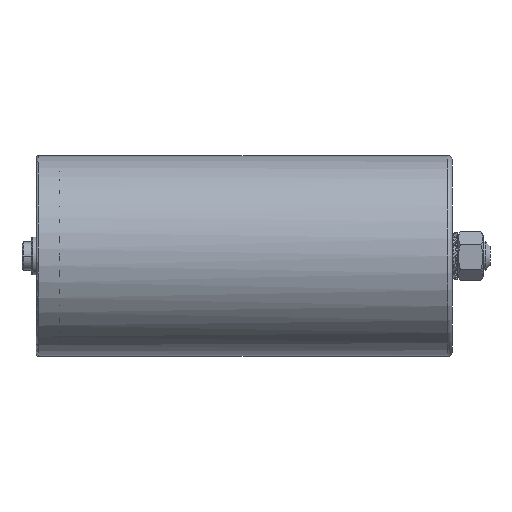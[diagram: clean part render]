
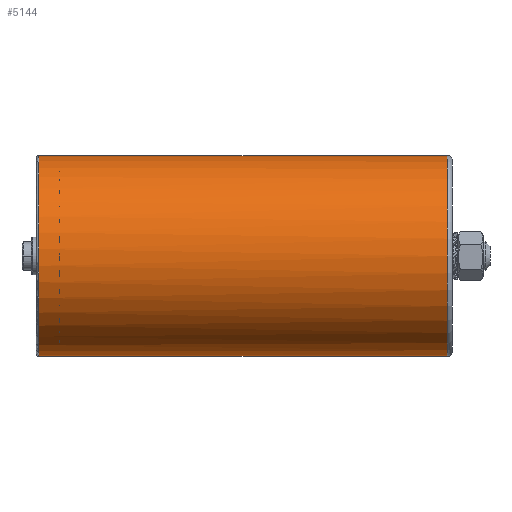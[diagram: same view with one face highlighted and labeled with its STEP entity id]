
A CAD part, left-side view. The second image highlights one B-rep face of the part: STEP entity #5144.
In plain terms, the highlighted cylindrical face has radius 42.5 mm (diameter 85 mm), a partial arc.
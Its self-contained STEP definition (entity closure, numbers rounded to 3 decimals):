
#43 = VERTEX_POINT ( 'NONE', #9711 ) ;
#324 = DIRECTION ( 'NONE',  ( 0., -1., 0. ) ) ;
#757 = ORIENTED_EDGE ( 'NONE', *, *, #3574, .T. ) ;
#995 = EDGE_CURVE ( 'NONE', #2294, #8625, #4924, .T. ) ;
#1034 = CARTESIAN_POINT ( 'NONE',  ( 0., 175., 42.5 ) ) ;
#1111 = VERTEX_POINT ( 'NONE', #8867 ) ;
#1213 = DIRECTION ( 'NONE',  ( 0., 0., -1. ) ) ;
#1231 = VECTOR ( 'NONE', #1984, 1000. ) ;
#1516 = AXIS2_PLACEMENT_3D ( 'NONE', #3809, #2387, #6915 ) ;
#1671 = CARTESIAN_POINT ( 'NONE',  ( 0., 2., 42.5 ) ) ;
#1984 = DIRECTION ( 'NONE',  ( 0., -1., 0. ) ) ;
#2294 = VERTEX_POINT ( 'NONE', #1034 ) ;
#2387 = DIRECTION ( 'NONE',  ( 0., -1., 0. ) ) ;
#2457 = DIRECTION ( 'NONE',  ( 0., 1., 0. ) ) ;
#3069 = ORIENTED_EDGE ( 'NONE', *, *, #6810, .T. ) ;
#3297 = DIRECTION ( 'NONE',  ( 0., 0., -1. ) ) ;
#3522 = EDGE_CURVE ( 'NONE', #5710, #8625, #5424, .T. ) ;
#3550 = CIRCLE ( 'NONE', #1516, 42.5 ) ;
#3574 = EDGE_CURVE ( 'NONE', #1111, #43, #6705, .T. ) ;
#3706 = AXIS2_PLACEMENT_3D ( 'NONE', #4124, #8082, #7186 ) ;
#3809 = CARTESIAN_POINT ( 'NONE',  ( 0., 175., 0. ) ) ;
#4013 = DIRECTION ( 'NONE',  ( 0., -1., 0. ) ) ;
#4124 = CARTESIAN_POINT ( 'NONE',  ( 0., 175., 0. ) ) ;
#4386 = EDGE_CURVE ( 'NONE', #43, #5710, #5359, .T. ) ;
#4657 = AXIS2_PLACEMENT_3D ( 'NONE', #9347, #324, #1213 ) ;
#4924 = LINE ( 'NONE', #5557, #1231 ) ;
#5144 = ADVANCED_FACE ( 'NONE', ( #6207 ), #7055, .T. ) ;
#5306 = VECTOR ( 'NONE', #4013, 1000. ) ;
#5359 = LINE ( 'NONE', #7763, #5306 ) ;
#5424 = CIRCLE ( 'NONE', #6066, 42.5 ) ;
#5557 = CARTESIAN_POINT ( 'NONE',  ( 0., 0., 42.5 ) ) ;
#5710 = VERTEX_POINT ( 'NONE', #5756 ) ;
#5756 = CARTESIAN_POINT ( 'NONE',  ( 0., 2., -42.5 ) ) ;
#6066 = AXIS2_PLACEMENT_3D ( 'NONE', #6942, #2457, #3297 ) ;
#6207 = FACE_OUTER_BOUND ( 'NONE', #9714, .T. ) ;
#6338 = ORIENTED_EDGE ( 'NONE', *, *, #995, .F. ) ;
#6705 = CIRCLE ( 'NONE', #3706, 42.5 ) ;
#6810 = EDGE_CURVE ( 'NONE', #2294, #1111, #3550, .T. ) ;
#6915 = DIRECTION ( 'NONE',  ( 0.596, 0., 0.803 ) ) ;
#6942 = CARTESIAN_POINT ( 'NONE',  ( 0., 2., 0. ) ) ;
#7055 = CYLINDRICAL_SURFACE ( 'NONE', #4657, 42.5 ) ;
#7186 = DIRECTION ( 'NONE',  ( 0.596, 0., 0.803 ) ) ;
#7310 = ORIENTED_EDGE ( 'NONE', *, *, #4386, .T. ) ;
#7565 = ORIENTED_EDGE ( 'NONE', *, *, #3522, .T. ) ;
#7763 = CARTESIAN_POINT ( 'NONE',  ( 0., 0., -42.5 ) ) ;
#8082 = DIRECTION ( 'NONE',  ( 0., -1., 0. ) ) ;
#8625 = VERTEX_POINT ( 'NONE', #1671 ) ;
#8867 = CARTESIAN_POINT ( 'NONE',  ( -25.343, 175., -34.117 ) ) ;
#9347 = CARTESIAN_POINT ( 'NONE',  ( 0., 0., 0. ) ) ;
#9711 = CARTESIAN_POINT ( 'NONE',  ( 0., 175., -42.5 ) ) ;
#9714 = EDGE_LOOP ( 'NONE', ( #6338, #3069, #757, #7310, #7565 ) ) ;
